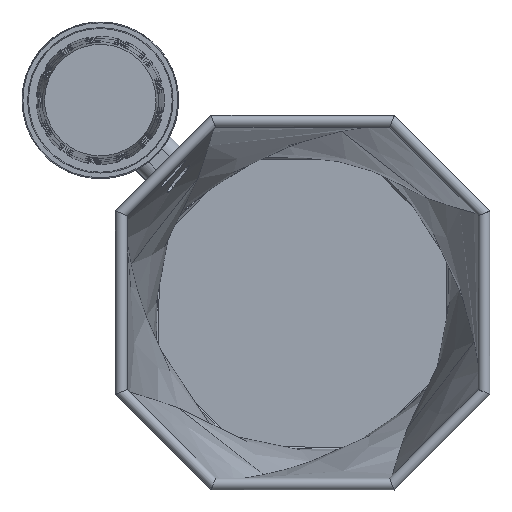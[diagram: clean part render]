
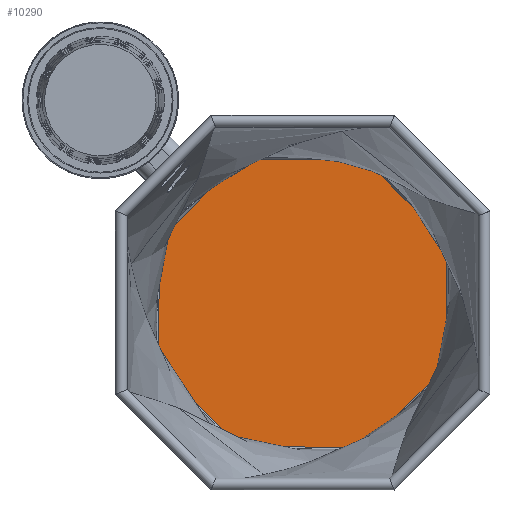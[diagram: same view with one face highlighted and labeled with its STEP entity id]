
A CAD part, top view. The second image highlights one B-rep face of the part: STEP entity #10290.
In plain terms, the highlighted planar face has unit normal (0, 0, 1).
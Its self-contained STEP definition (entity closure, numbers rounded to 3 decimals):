
#1350=FACE_OUTER_BOUND('',#1958,.T.);
#1958=EDGE_LOOP('',(#9213,#9214,#9215,#9216,#9217,#9218,#9219,#9220));
#3504=B_SPLINE_CURVE_WITH_KNOTS('',3,(#20415,#20416,#20417,#20418,#20419,
#20420),.UNSPECIFIED.,.F.,.F.,(4,2,4),(0.084,0.437,
2.201),.UNSPECIFIED.);
#3508=B_SPLINE_CURVE_WITH_KNOTS('',3,(#20455,#20456,#20457,#20458,#20459,
#20460),.UNSPECIFIED.,.F.,.F.,(4,2,4),(0.08,1.277,
2.492),.UNSPECIFIED.);
#3510=B_SPLINE_CURVE_WITH_KNOTS('',3,(#20485,#20486,#20487,#20488,#20489,
#20490),.UNSPECIFIED.,.F.,.F.,(4,2,4),(0.08,1.277,
2.492),.UNSPECIFIED.);
#3516=B_SPLINE_CURVE_WITH_KNOTS('',3,(#20538,#20539,#20540,#20541,#20542,
#20543),.UNSPECIFIED.,.F.,.F.,(4,2,4),(0.08,1.277,
2.492),.UNSPECIFIED.);
#3519=B_SPLINE_CURVE_WITH_KNOTS('',3,(#20591,#20592,#20593,#20594,#20595,
#20596),.UNSPECIFIED.,.F.,.F.,(4,2,4),(0.084,0.437,
2.201),.UNSPECIFIED.);
#3521=B_SPLINE_CURVE_WITH_KNOTS('',3,(#20621,#20622,#20623,#20624,#20625,
#20626),.UNSPECIFIED.,.F.,.F.,(4,2,4),(0.08,1.277,
2.492),.UNSPECIFIED.);
#3524=B_SPLINE_CURVE_WITH_KNOTS('',3,(#20666,#20667,#20668,#20669,#20670,
#20671),.UNSPECIFIED.,.F.,.F.,(4,2,4),(0.084,0.437,
2.201),.UNSPECIFIED.);
#3528=B_SPLINE_CURVE_WITH_KNOTS('',3,(#20725,#20726,#20727,#20728,#20729,
#20730),.UNSPECIFIED.,.F.,.F.,(4,2,4),(0.084,0.437,
2.201),.UNSPECIFIED.);
#4592=VERTEX_POINT('',#20406);
#4593=VERTEX_POINT('',#20414);
#4596=VERTEX_POINT('',#20454);
#4597=VERTEX_POINT('',#20484);
#4601=VERTEX_POINT('',#20529);
#4602=VERTEX_POINT('',#20537);
#4604=VERTEX_POINT('',#20590);
#4605=VERTEX_POINT('',#20620);
#6139=EDGE_CURVE('',#4593,#4592,#3504,.T.);
#6143=EDGE_CURVE('',#4596,#4593,#3508,.T.);
#6145=EDGE_CURVE('',#4592,#4597,#3510,.T.);
#6151=EDGE_CURVE('',#4602,#4601,#3516,.T.);
#6154=EDGE_CURVE('',#4604,#4602,#3519,.T.);
#6156=EDGE_CURVE('',#4605,#4604,#3521,.T.);
#6159=EDGE_CURVE('',#4597,#4605,#3524,.T.);
#6163=EDGE_CURVE('',#4601,#4596,#3528,.T.);
#9213=ORIENTED_EDGE('',*,*,#6151,.T.);
#9214=ORIENTED_EDGE('',*,*,#6163,.T.);
#9215=ORIENTED_EDGE('',*,*,#6143,.T.);
#9216=ORIENTED_EDGE('',*,*,#6139,.T.);
#9217=ORIENTED_EDGE('',*,*,#6145,.T.);
#9218=ORIENTED_EDGE('',*,*,#6159,.T.);
#9219=ORIENTED_EDGE('',*,*,#6156,.T.);
#9220=ORIENTED_EDGE('',*,*,#6154,.T.);
#9799=PLANE('',#11460);
#10290=ADVANCED_FACE('',(#1350),#9799,.T.);
#11460=AXIS2_PLACEMENT_3D('',#20923,#14410,#14411);
#14410=DIRECTION('center_axis',(0.,0.,1.));
#14411=DIRECTION('ref_axis',(1.,0.,0.));
#20406=CARTESIAN_POINT('',(14.522,-31.609,1.35));
#20414=CARTESIAN_POINT('',(-11.924,-31.579,1.35));
#20415=CARTESIAN_POINT('Ctrl Pts',(-11.924,-31.579,
1.35));
#20416=CARTESIAN_POINT('Ctrl Pts',(-10.648,-31.594,
1.35));
#20417=CARTESIAN_POINT('Ctrl Pts',(-9.235,-31.599,
1.35));
#20418=CARTESIAN_POINT('Ctrl Pts',(-3.711,-31.613,
1.35));
#20419=CARTESIAN_POINT('Ctrl Pts',(10.779,-31.609,1.35));
#20420=CARTESIAN_POINT('Ctrl Pts',(14.522,-31.609,1.35));
#20454=CARTESIAN_POINT('',(-28.97,-14.522,1.35));
#20455=CARTESIAN_POINT('Ctrl Pts',(-28.97,-14.522,
1.35));
#20456=CARTESIAN_POINT('Ctrl Pts',(-26.15,-17.344,1.35));
#20457=CARTESIAN_POINT('Ctrl Pts',(-23.329,-20.167,
1.35));
#20458=CARTESIAN_POINT('Ctrl Pts',(-17.647,-25.852,
1.35));
#20459=CARTESIAN_POINT('Ctrl Pts',(-14.785,-28.716,
1.35));
#20460=CARTESIAN_POINT('Ctrl Pts',(-11.924,-31.579,
1.35));
#20484=CARTESIAN_POINT('',(31.579,-14.562,1.35));
#20485=CARTESIAN_POINT('Ctrl Pts',(14.522,-31.609,1.35));
#20486=CARTESIAN_POINT('Ctrl Pts',(17.344,-28.788,1.35));
#20487=CARTESIAN_POINT('Ctrl Pts',(20.167,-25.968,1.35));
#20488=CARTESIAN_POINT('Ctrl Pts',(25.852,-20.286,1.35));
#20489=CARTESIAN_POINT('Ctrl Pts',(28.716,-17.424,1.35));
#20490=CARTESIAN_POINT('Ctrl Pts',(31.579,-14.562,1.35));
#20529=CARTESIAN_POINT('',(-28.94,11.924,1.35));
#20537=CARTESIAN_POINT('',(-11.883,28.97,1.35));
#20538=CARTESIAN_POINT('Ctrl Pts',(-11.883,28.97,1.35));
#20539=CARTESIAN_POINT('Ctrl Pts',(-14.706,26.15,1.35));
#20540=CARTESIAN_POINT('Ctrl Pts',(-17.528,23.329,1.35));
#20541=CARTESIAN_POINT('Ctrl Pts',(-23.214,17.647,1.35));
#20542=CARTESIAN_POINT('Ctrl Pts',(-26.077,14.785,1.35));
#20543=CARTESIAN_POINT('Ctrl Pts',(-28.94,11.924,1.35));
#20590=CARTESIAN_POINT('',(14.562,28.94,1.35));
#20591=CARTESIAN_POINT('Ctrl Pts',(14.562,28.94,1.35));
#20592=CARTESIAN_POINT('Ctrl Pts',(13.286,28.956,1.35));
#20593=CARTESIAN_POINT('Ctrl Pts',(11.874,28.96,1.35));
#20594=CARTESIAN_POINT('Ctrl Pts',(6.349,28.974,1.35));
#20595=CARTESIAN_POINT('Ctrl Pts',(-8.141,28.97,1.35));
#20596=CARTESIAN_POINT('Ctrl Pts',(-11.883,28.97,1.35));
#20620=CARTESIAN_POINT('',(31.609,11.883,1.35));
#20621=CARTESIAN_POINT('Ctrl Pts',(31.609,11.883,1.35));
#20622=CARTESIAN_POINT('Ctrl Pts',(28.788,14.706,1.35));
#20623=CARTESIAN_POINT('Ctrl Pts',(25.968,17.528,1.35));
#20624=CARTESIAN_POINT('Ctrl Pts',(20.286,23.214,1.35));
#20625=CARTESIAN_POINT('Ctrl Pts',(17.424,26.077,1.35));
#20626=CARTESIAN_POINT('Ctrl Pts',(14.562,28.94,1.35));
#20666=CARTESIAN_POINT('Ctrl Pts',(31.579,-14.562,1.35));
#20667=CARTESIAN_POINT('Ctrl Pts',(31.594,-13.286,1.35));
#20668=CARTESIAN_POINT('Ctrl Pts',(31.599,-11.874,1.35));
#20669=CARTESIAN_POINT('Ctrl Pts',(31.613,-6.349,1.35));
#20670=CARTESIAN_POINT('Ctrl Pts',(31.609,8.141,1.35));
#20671=CARTESIAN_POINT('Ctrl Pts',(31.609,11.883,1.35));
#20725=CARTESIAN_POINT('Ctrl Pts',(-28.94,11.924,1.35));
#20726=CARTESIAN_POINT('Ctrl Pts',(-28.956,10.648,1.35));
#20727=CARTESIAN_POINT('Ctrl Pts',(-28.96,9.235,1.35));
#20728=CARTESIAN_POINT('Ctrl Pts',(-28.974,3.711,1.35));
#20729=CARTESIAN_POINT('Ctrl Pts',(-28.97,-10.779,
1.35));
#20730=CARTESIAN_POINT('Ctrl Pts',(-28.97,-14.522,
1.35));
#20923=CARTESIAN_POINT('Origin',(1.319,-1.319,1.35));
